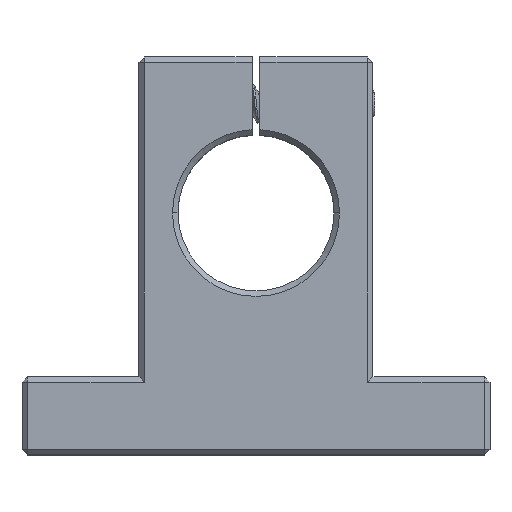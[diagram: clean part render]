
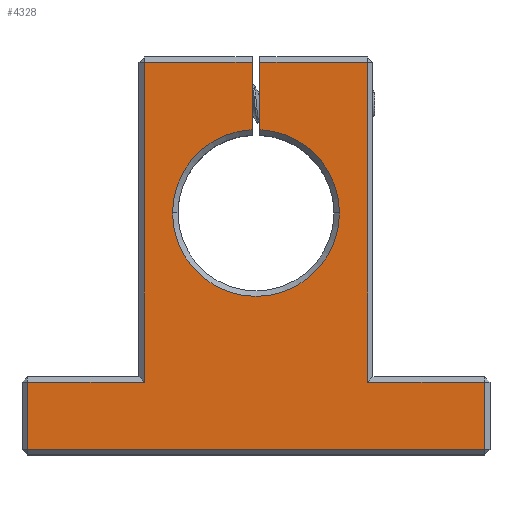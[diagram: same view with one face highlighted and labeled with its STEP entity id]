
A CAD part, top view. The second image highlights one B-rep face of the part: STEP entity #4328.
In plain terms, the highlighted planar face has unit normal (0, 0, 1).
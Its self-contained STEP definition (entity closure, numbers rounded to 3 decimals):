
#23 = VERTEX_POINT ( 'NONE', #985 ) ;
#126 = VERTEX_POINT ( 'NONE', #5566 ) ;
#276 = EDGE_CURVE ( 'NONE', #1458, #854, #6411, .T. ) ;
#669 = LINE ( 'NONE', #8207, #7371 ) ;
#751 = CARTESIAN_POINT ( 'NONE',  ( 14.3, 50.3, 20. ) ) ;
#771 = DIRECTION ( 'NONE',  ( -1., 0., 0. ) ) ;
#854 = VERTEX_POINT ( 'NONE', #5263 ) ;
#904 = VECTOR ( 'NONE', #771, 1000. ) ;
#985 = CARTESIAN_POINT ( 'NONE',  ( -29.3, 9.3, 20. ) ) ;
#1024 = EDGE_CURVE ( 'NONE', #6792, #2886, #7416, .T. ) ;
#1059 = LINE ( 'NONE', #6985, #7950 ) ;
#1100 = PLANE ( 'NONE',  #4299 ) ;
#1137 = CIRCLE ( 'NONE', #7439, 10.7 ) ;
#1458 = VERTEX_POINT ( 'NONE', #3435 ) ;
#1476 = FACE_OUTER_BOUND ( 'NONE', #7752, .T. ) ;
#1607 = EDGE_CURVE ( 'NONE', #23, #1458, #4214, .T. ) ;
#1684 = DIRECTION ( 'NONE',  ( -1., 0., 0. ) ) ;
#1741 = EDGE_CURVE ( 'NONE', #1845, #5996, #5334, .T. ) ;
#1749 = DIRECTION ( 'NONE',  ( 1., 0., 0. ) ) ;
#1780 = DIRECTION ( 'NONE',  ( 0., -1., 0. ) ) ;
#1845 = VERTEX_POINT ( 'NONE', #2633 ) ;
#1908 = EDGE_CURVE ( 'NONE', #6813, #1845, #7748, .T. ) ;
#2112 = CARTESIAN_POINT ( 'NONE',  ( 0., 31., 20. ) ) ;
#2200 = VERTEX_POINT ( 'NONE', #6028 ) ;
#2234 = VERTEX_POINT ( 'NONE', #4737 ) ;
#2263 = CARTESIAN_POINT ( 'NONE',  ( -15., 50.3, 20. ) ) ;
#2331 = ORIENTED_EDGE ( 'NONE', *, *, #1908, .T. ) ;
#2446 = CARTESIAN_POINT ( 'NONE',  ( 0., 31., 20. ) ) ;
#2519 = DIRECTION ( 'NONE',  ( 1., 0., 0. ) ) ;
#2613 = CARTESIAN_POINT ( 'NONE',  ( 0., 31., 20. ) ) ;
#2633 = CARTESIAN_POINT ( 'NONE',  ( -10.7, 31., 20. ) ) ;
#2716 = AXIS2_PLACEMENT_3D ( 'NONE', #2446, #6982, #3116 ) ;
#2779 = DIRECTION ( 'NONE',  ( 1., 0., 0. ) ) ;
#2827 = CARTESIAN_POINT ( 'NONE',  ( -0.5, 50.3, 20. ) ) ;
#2886 = VERTEX_POINT ( 'NONE', #3872 ) ;
#3038 = DIRECTION ( 'NONE',  ( 0., -1., 0. ) ) ;
#3081 = EDGE_CURVE ( 'NONE', #2200, #126, #4358, .T. ) ;
#3116 = DIRECTION ( 'NONE',  ( 1., 0., 0. ) ) ;
#3185 = VECTOR ( 'NONE', #2519, 1000. ) ;
#3206 = VECTOR ( 'NONE', #1684, 1000. ) ;
#3223 = EDGE_CURVE ( 'NONE', #126, #6792, #6990, .T. ) ;
#3266 = DIRECTION ( 'NONE',  ( 1., 0., 0. ) ) ;
#3306 = VERTEX_POINT ( 'NONE', #4713 ) ;
#3412 = LINE ( 'NONE', #4270, #3206 ) ;
#3413 = DIRECTION ( 'NONE',  ( 0., -1., 0. ) ) ;
#3435 = CARTESIAN_POINT ( 'NONE',  ( -29.3, 0.7, 20. ) ) ;
#3438 = DIRECTION ( 'NONE',  ( -1., 0., 0. ) ) ;
#3468 = VERTEX_POINT ( 'NONE', #2827 ) ;
#3578 = DIRECTION ( 'NONE',  ( -1., 0., 0. ) ) ;
#3665 = EDGE_CURVE ( 'NONE', #3468, #6517, #3849, .T. ) ;
#3776 = VECTOR ( 'NONE', #3438, 1000. ) ;
#3849 = LINE ( 'NONE', #2263, #4256 ) ;
#3851 = AXIS2_PLACEMENT_3D ( 'NONE', #2613, #7139, #3266 ) ;
#3852 = CARTESIAN_POINT ( 'NONE',  ( 30., 0.7, 20. ) ) ;
#3861 = ORIENTED_EDGE ( 'NONE', *, *, #6843, .T. ) ;
#3872 = CARTESIAN_POINT ( 'NONE',  ( 0.5, 50.3, 20. ) ) ;
#4214 = LINE ( 'NONE', #4951, #5539 ) ;
#4256 = VECTOR ( 'NONE', #3578, 1000. ) ;
#4270 = CARTESIAN_POINT ( 'NONE',  ( -30., 9.3, 20. ) ) ;
#4299 = AXIS2_PLACEMENT_3D ( 'NONE', #6885, #5653, #1749 ) ;
#4328 = ADVANCED_FACE ( 'NONE', ( #1476 ), #1100, .T. ) ;
#4358 = LINE ( 'NONE', #4660, #904 ) ;
#4460 = ORIENTED_EDGE ( 'NONE', *, *, #4833, .T. ) ;
#4546 = VECTOR ( 'NONE', #8096, 1000. ) ;
#4660 = CARTESIAN_POINT ( 'NONE',  ( 15., 9.3, 20. ) ) ;
#4705 = CARTESIAN_POINT ( 'NONE',  ( 0.5, 40.987, 20. ) ) ;
#4713 = CARTESIAN_POINT ( 'NONE',  ( 0.5, 41.688, 20. ) ) ;
#4737 = CARTESIAN_POINT ( 'NONE',  ( -14.3, 9.3, 20. ) ) ;
#4833 = EDGE_CURVE ( 'NONE', #2886, #3306, #6136, .T. ) ;
#4951 = CARTESIAN_POINT ( 'NONE',  ( -29.3, 0., 20. ) ) ;
#5057 = DIRECTION ( 'NONE',  ( 0., 1., 0. ) ) ;
#5115 = EDGE_CURVE ( 'NONE', #2234, #23, #3412, .T. ) ;
#5255 = EDGE_CURVE ( 'NONE', #854, #2200, #1059, .T. ) ;
#5263 = CARTESIAN_POINT ( 'NONE',  ( 29.3, 0.7, 20. ) ) ;
#5274 = VECTOR ( 'NONE', #6600, 1000. ) ;
#5284 = ORIENTED_EDGE ( 'NONE', *, *, #1024, .T. ) ;
#5334 = CIRCLE ( 'NONE', #2716, 10.7 ) ;
#5360 = CARTESIAN_POINT ( 'NONE',  ( 0.5, 50.3, 20. ) ) ;
#5539 = VECTOR ( 'NONE', #3038, 1000. ) ;
#5566 = CARTESIAN_POINT ( 'NONE',  ( 14.3, 9.3, 20. ) ) ;
#5594 = ORIENTED_EDGE ( 'NONE', *, *, #3223, .T. ) ;
#5653 = DIRECTION ( 'NONE',  ( 0., 0., 1. ) ) ;
#5737 = CARTESIAN_POINT ( 'NONE',  ( -0.5, 41.688, 20. ) ) ;
#5787 = ORIENTED_EDGE ( 'NONE', *, *, #3081, .T. ) ;
#5962 = CARTESIAN_POINT ( 'NONE',  ( 14.3, 51., 20. ) ) ;
#5996 = VERTEX_POINT ( 'NONE', #5737 ) ;
#6028 = CARTESIAN_POINT ( 'NONE',  ( 29.3, 9.3, 20. ) ) ;
#6087 = ORIENTED_EDGE ( 'NONE', *, *, #5255, .T. ) ;
#6136 = LINE ( 'NONE', #4705, #7643 ) ;
#6256 = CARTESIAN_POINT ( 'NONE',  ( -14.3, 50.3, 20. ) ) ;
#6389 = ORIENTED_EDGE ( 'NONE', *, *, #276, .T. ) ;
#6411 = LINE ( 'NONE', #3852, #3185 ) ;
#6494 = ORIENTED_EDGE ( 'NONE', *, *, #1607, .T. ) ;
#6517 = VERTEX_POINT ( 'NONE', #6256 ) ;
#6600 = DIRECTION ( 'NONE',  ( 0., 1., 0. ) ) ;
#6619 = CARTESIAN_POINT ( 'NONE',  ( 10.7, 31., 20. ) ) ;
#6651 = DIRECTION ( 'NONE',  ( 0., 0., -1. ) ) ;
#6696 = ORIENTED_EDGE ( 'NONE', *, *, #5115, .T. ) ;
#6781 = CARTESIAN_POINT ( 'NONE',  ( -0.5, 51., 20. ) ) ;
#6792 = VERTEX_POINT ( 'NONE', #751 ) ;
#6813 = VERTEX_POINT ( 'NONE', #6619 ) ;
#6843 = EDGE_CURVE ( 'NONE', #3306, #6813, #1137, .T. ) ;
#6885 = CARTESIAN_POINT ( 'NONE',  ( 0., 31., 20. ) ) ;
#6982 = DIRECTION ( 'NONE',  ( 0., 0., -1. ) ) ;
#6985 = CARTESIAN_POINT ( 'NONE',  ( 29.3, 10., 20. ) ) ;
#6990 = LINE ( 'NONE', #5962, #5274 ) ;
#7109 = ORIENTED_EDGE ( 'NONE', *, *, #8143, .T. ) ;
#7139 = DIRECTION ( 'NONE',  ( 0., 0., -1. ) ) ;
#7371 = VECTOR ( 'NONE', #1780, 1000. ) ;
#7416 = LINE ( 'NONE', #5360, #3776 ) ;
#7439 = AXIS2_PLACEMENT_3D ( 'NONE', #2112, #6651, #2779 ) ;
#7593 = ORIENTED_EDGE ( 'NONE', *, *, #3665, .T. ) ;
#7643 = VECTOR ( 'NONE', #3413, 1000. ) ;
#7697 = ORIENTED_EDGE ( 'NONE', *, *, #7917, .T. ) ;
#7748 = CIRCLE ( 'NONE', #3851, 10.7 ) ;
#7752 = EDGE_LOOP ( 'NONE', ( #4460, #3861, #2331, #8403, #7697, #7593, #7109, #6696, #6494, #6389, #6087, #5787, #5594, #5284 ) ) ;
#7917 = EDGE_CURVE ( 'NONE', #5996, #3468, #7982, .T. ) ;
#7950 = VECTOR ( 'NONE', #5057, 1000. ) ;
#7982 = LINE ( 'NONE', #6781, #4546 ) ;
#8096 = DIRECTION ( 'NONE',  ( 0., 1., 0. ) ) ;
#8143 = EDGE_CURVE ( 'NONE', #6517, #2234, #669, .T. ) ;
#8207 = CARTESIAN_POINT ( 'NONE',  ( -14.3, 10., 20. ) ) ;
#8403 = ORIENTED_EDGE ( 'NONE', *, *, #1741, .T. ) ;
